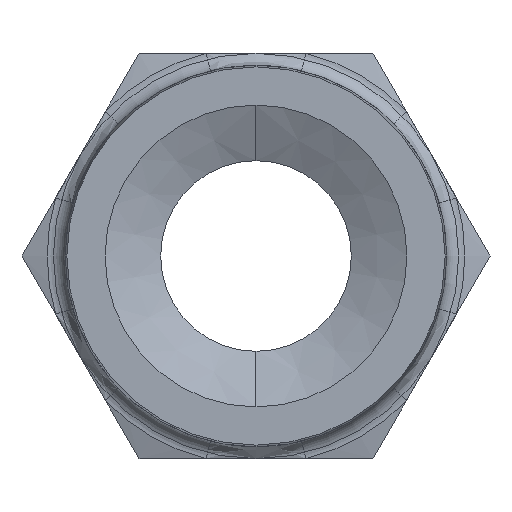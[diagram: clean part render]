
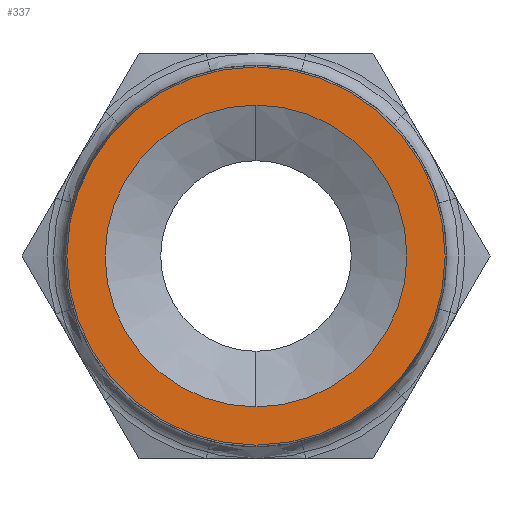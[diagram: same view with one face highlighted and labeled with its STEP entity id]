
A CAD part, left-side view. The second image highlights one B-rep face of the part: STEP entity #337.
In plain terms, the highlighted planar face has unit normal (-1, 0, 0).
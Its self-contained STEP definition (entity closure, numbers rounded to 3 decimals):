
#90 = VERTEX_POINT ( 'NONE', #949 ) ;
#91 = VERTEX_POINT ( 'NONE', #1065 ) ;
#97 = EDGE_CURVE ( 'NONE', #90, #105, #942, .T. ) ;
#105 = VERTEX_POINT ( 'NONE', #930 ) ;
#136 = EDGE_CURVE ( 'NONE', #137, #91, #1285, .T. ) ;
#137 = VERTEX_POINT ( 'NONE', #1114 ) ;
#337 = ADVANCED_FACE ( 'NONE', ( #1312, #1311 ), #1309, .T. ) ;
#338 = EDGE_LOOP ( 'NONE', ( #345, #649 ) ) ;
#345 = ORIENTED_EDGE ( 'NONE', *, *, #346, .T. ) ;
#346 = EDGE_CURVE ( 'NONE', #91, #137, #1532, .T. ) ;
#347 = EDGE_LOOP ( 'NONE', ( #650, #564 ) ) ;
#564 = ORIENTED_EDGE ( 'NONE', *, *, #97, .F. ) ;
#649 = ORIENTED_EDGE ( 'NONE', *, *, #136, .T. ) ;
#650 = ORIENTED_EDGE ( 'NONE', *, *, #714, .F. ) ;
#714 = EDGE_CURVE ( 'NONE', #105, #90, #2296, .T. ) ;
#930 = CARTESIAN_POINT ( 'NONE',  ( -32.5, 0., 10.05 ) ) ;
#938 = DIRECTION ( 'NONE',  ( 0., 0., 1. ) ) ;
#939 = DIRECTION ( 'NONE',  ( -1., 0., 0. ) ) ;
#940 = CARTESIAN_POINT ( 'NONE',  ( -32.5, 0., 0. ) ) ;
#941 = AXIS2_PLACEMENT_3D ( 'NONE', #940, #939, #938 ) ;
#942 = CIRCLE ( 'NONE', #941, 10.05 ) ;
#949 = CARTESIAN_POINT ( 'NONE',  ( -32.5, 0., -10.05 ) ) ;
#1065 = CARTESIAN_POINT ( 'NONE',  ( -32.5, 0., 12.595 ) ) ;
#1114 = CARTESIAN_POINT ( 'NONE',  ( -32.5, 0., -12.595 ) ) ;
#1115 = DIRECTION ( 'NONE',  ( 0., 0., 1. ) ) ;
#1116 = DIRECTION ( 'NONE',  ( -1., 0., 0. ) ) ;
#1281 = CARTESIAN_POINT ( 'NONE',  ( -32.5, 0., 0. ) ) ;
#1282 = AXIS2_PLACEMENT_3D ( 'NONE', #1281, #1116, #1115 ) ;
#1285 = CIRCLE ( 'NONE', #1282, 12.595 ) ;
#1297 = DIRECTION ( 'NONE',  ( 0., 0., 1. ) ) ;
#1298 = DIRECTION ( 'NONE',  ( -1., 0., 0. ) ) ;
#1307 = AXIS2_PLACEMENT_3D ( 'NONE', #1308, #1298, #1297 ) ;
#1308 = CARTESIAN_POINT ( 'NONE',  ( -32.5, 0., 0. ) ) ;
#1309 = PLANE ( 'NONE',  #1307 ) ;
#1311 = FACE_BOUND ( 'NONE', #347, .T. ) ;
#1312 = FACE_OUTER_BOUND ( 'NONE', #338, .T. ) ;
#1532 = CIRCLE ( 'NONE', #1734, 12.595 ) ;
#1731 = DIRECTION ( 'NONE',  ( 0., 0., 1. ) ) ;
#1732 = DIRECTION ( 'NONE',  ( -1., 0., 0. ) ) ;
#1733 = CARTESIAN_POINT ( 'NONE',  ( -32.5, 0., 0. ) ) ;
#1734 = AXIS2_PLACEMENT_3D ( 'NONE', #1733, #1732, #1731 ) ;
#2290 = DIRECTION ( 'NONE',  ( 0., 0., 1. ) ) ;
#2291 = DIRECTION ( 'NONE',  ( -1., 0., 0. ) ) ;
#2292 = CARTESIAN_POINT ( 'NONE',  ( -32.5, 0., 0. ) ) ;
#2293 = AXIS2_PLACEMENT_3D ( 'NONE', #2292, #2291, #2290 ) ;
#2296 = CIRCLE ( 'NONE', #2293, 10.05 ) ;
